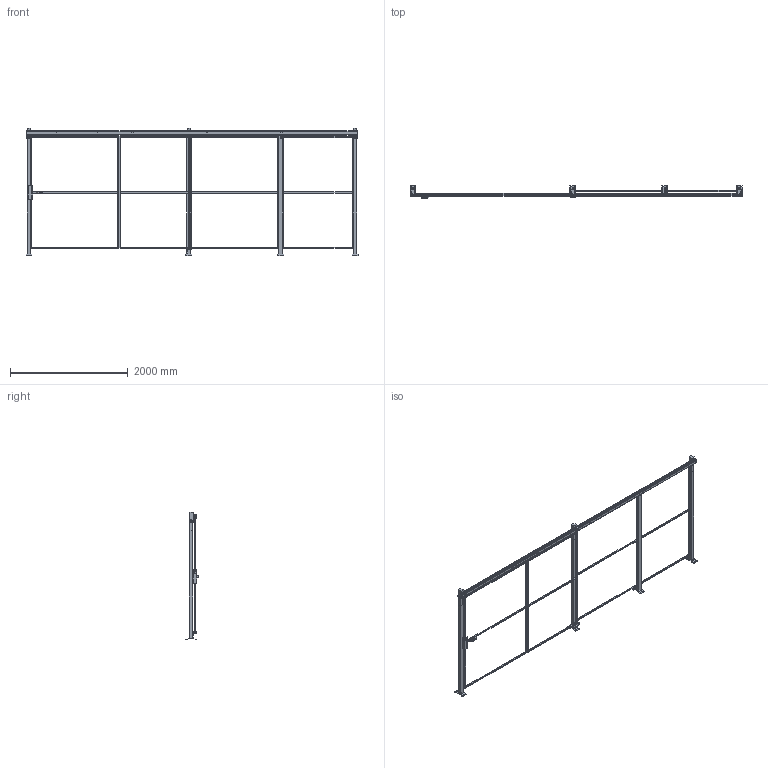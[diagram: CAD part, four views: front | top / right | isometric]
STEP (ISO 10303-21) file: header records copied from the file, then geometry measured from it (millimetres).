
FILE_DESCRIPTION(/* description */ (''),/* implementation_level */ '2;1');
FILE_NAME(/* name */ 'C:\SafeGuarding\ELABORATI\VZOR§POSUVNE_1950x2320_2025-02-13-13-30-17.stp',/* time_stamp */ '2025-02-13T13:30:18+01:00',/* author */ ('admin'),/* organization */ (''),/* preprocessor_version */ 'ST-DEVELOPER v18.1',/* originating_system */ 'AutoCAD Mechanical',/* authorisation */ '');
FILE_SCHEMA (('AUTOMOTIVE_DESIGN { 1 0 10303 214 3 1 1 }'));
Length unit declared in the file: millimetre
Products named in the file (5): Product; R_VFPA.REPE20.12001900; R_VFPA.REPE20.15001900; DATI_PORTA; P_VFMA.ME60SDU.2020
Assembly tree (9 placements, depth 2):
  Product
    P_VFMA.ME60SDU.2020  x4
    R_VFPA.REPE20.12001900  x2
    R_VFPA.REPE20.15001900  x2
    DATI_PORTA
Bounding box: 5630 x 219.95 x 2154 mm (x, y, z)
Volume: 52902352 mm3; surface area: 7840162.5 mm2
Topology: 51 solids, 62 shells, 701 faces, 2356 edges, 2400 vertices
Faces by surface type: plane 651, cylinder 48, sphere 2
Full cylindrical faces by diameter (mm): 11 x16, 12 x2, 15 x4, 40 x4
Entity records: 16949 total; most frequent: CARTESIAN_POINT 3611, DIRECTION 2557, ORIENTED_EDGE 2454, LINE 1313, VECTOR 1313, EDGE_CURVE 1276, VERTEX_POINT 892, AXIS2_PLACEMENT_3D 622
